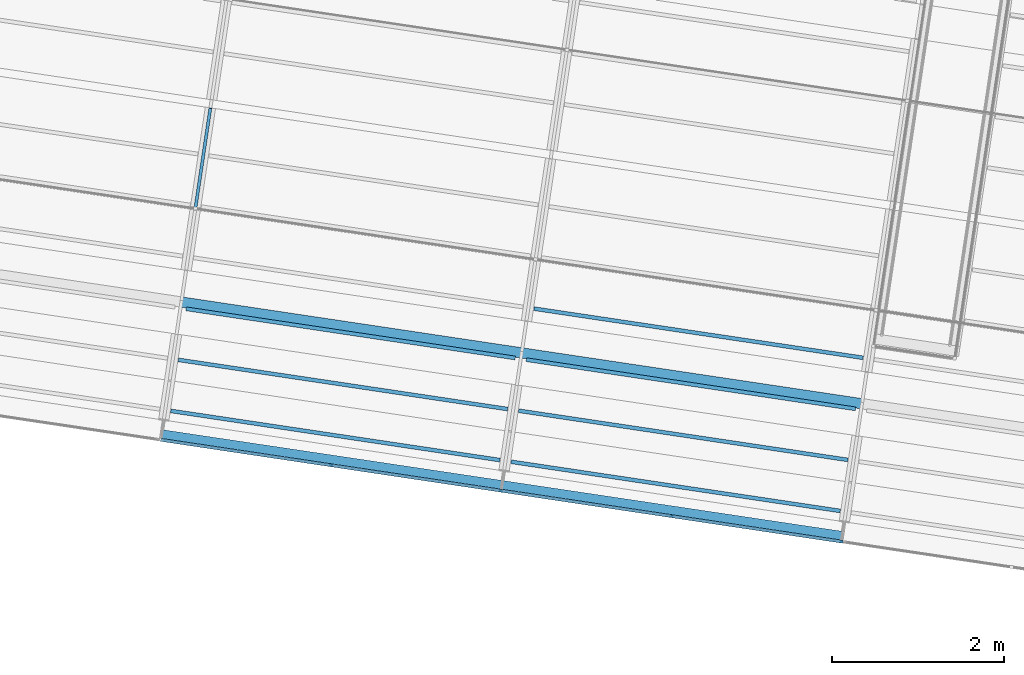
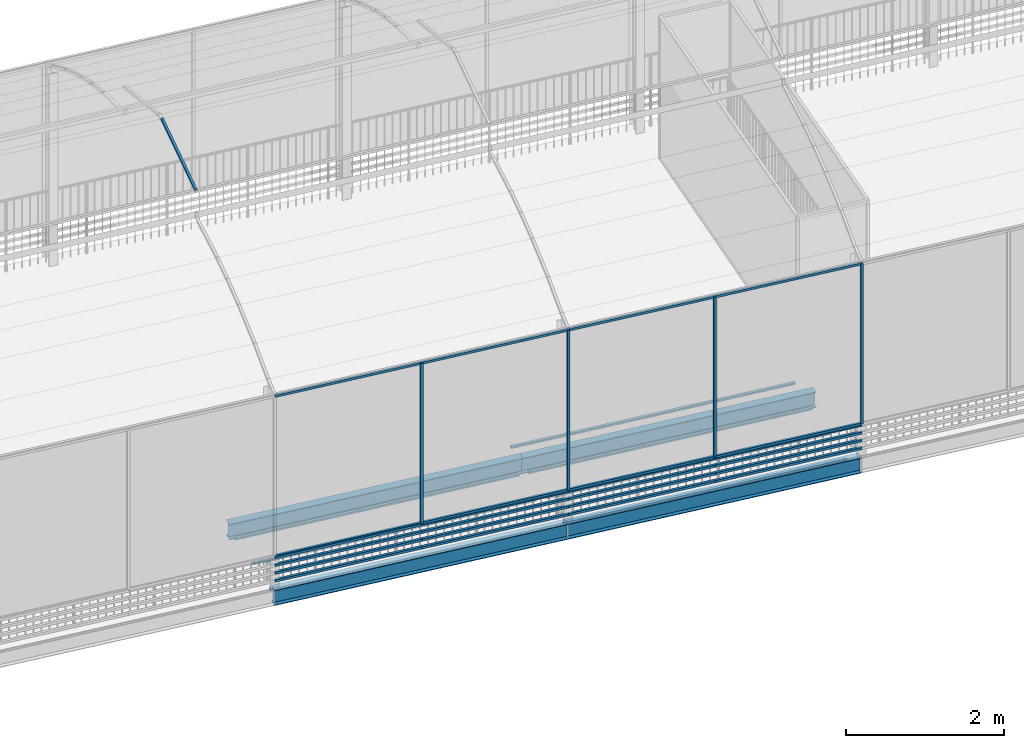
# One storey, part 10 of 34: 33 members, 11 beams, 1 element without a shape of its own.
"""IFC4 building model written with IfcOpenShell, lengths in metres."""

import ifcopenshell
import ifcopenshell.guid

model = None  # the IFC model being written
_history = None  # IfcOwnerHistory: only IFC2X3 demands one
_inside = {}  # id of a spatial element -> (the spatial element, [elements in it])
_under = {}  # id of a project, library or spatial element -> (it, [spatial elements below it])
_declared = {}  # id of a project -> (the project, [libraries it declares])
_typed = {}  # id of a type object -> (the type object, [elements of that type])
_made_of = {}  # id of a material, layer set ... -> (it, [elements and type objects made of it])


def new_model(schema):
    """Start an empty IFC model of exactly this schema.

    Asked for "IFC4X3", IfcOpenShell would pick the latest addendum, in which some entities
    have other attributes; the version numbers below select the first issue.
    IFC2X3 requires an IfcOwnerHistory on every rooted entity: one is made here for all.
    """
    global model, _history
    if schema == "IFC4X3":
        model = ifcopenshell.file(schema_version=(4, 3, 0, 0))
    else:
        model = ifcopenshell.file(schema=schema)
    _inside.clear()
    _under.clear()
    _declared.clear()
    _typed.clear()
    _made_of.clear()
    _history = None
    if model.schema == "IFC2X3":
        org = make("IfcOrganization", Name="unknown")
        user = make(
            "IfcPersonAndOrganization",
            ThePerson=make("IfcPerson", FamilyName="unknown"),
            TheOrganization=org,
        )
        app = make(
            "IfcApplication",
            ApplicationDeveloper=org,
            Version="unknown",
            ApplicationFullName="unknown",
            ApplicationIdentifier="unknown",
        )
        _history = make(
            "IfcOwnerHistory",
            OwningUser=user,
            OwningApplication=app,
            ChangeAction="ADDED",
            CreationDate=0,
        )
    return model


def make(cls, **values):
    """One entity of the class cls with the attributes given. An attribute that is None is left unset."""
    return model.create_entity(
        cls, **{name: value for name, value in values.items() if value is not None}
    )


def rooted(cls, **values):
    """An entity with a GlobalId (a new one), such as an element, a storey or a relation."""
    return make(cls, GlobalId=ifcopenshell.guid.new(), OwnerHistory=_history, **values)


def si_unit(unit_type, name, prefix=None):
    """IfcSIUnit, for example si_unit("LENGTHUNIT", "METRE", prefix="MILLI")."""
    return make("IfcSIUnit", UnitType=unit_type, Prefix=prefix, Name=name)


def assignment(units):
    """IfcUnitAssignment: the units of a project."""
    return None if units is None else make("IfcUnitAssignment", Units=units)


def point(xyz):
    """IfcCartesianPoint."""
    return None if xyz is None else make("IfcCartesianPoint", Coordinates=xyz)


def direction(xyz):
    """IfcDirection."""
    return None if xyz is None else make("IfcDirection", DirectionRatios=xyz)


def frame(location, z_axis=None, x_axis=None):
    """IfcAxis2Placement3D, a coordinate frame: its origin and axes. An axis left out is left unset."""
    return make(
        "IfcAxis2Placement3D",
        Location=point(location),
        Axis=direction(z_axis),
        RefDirection=direction(x_axis),
    )


def origin_with_axes():
    """The frame at (0, 0, 0) with the z axis (0, 0, 1) and the x axis (1, 0, 0) written out."""
    return frame((0.0, 0.0, 0.0), z_axis=(0.0, 0.0, 1.0), x_axis=(1.0, 0.0, 0.0))


def place(relative_to, where):
    """IfcLocalPlacement: puts the frame where relative to a parent placement (None: the world)."""
    return make(
        "IfcLocalPlacement", PlacementRelTo=relative_to, RelativePlacement=where
    )


def context(
    kind, dimensions, precision=None, world=None, true_north=None, identifier=None
):
    """IfcGeometricRepresentationContext, for example the 3D "Model" context."""
    return make(
        "IfcGeometricRepresentationContext",
        ContextIdentifier=identifier,
        ContextType=kind,
        CoordinateSpaceDimension=dimensions,
        Precision=precision,
        WorldCoordinateSystem=world,
        TrueNorth=true_north,
    )


def subcontext(parent, identifier, kind, view, scale=None):
    """IfcGeometricRepresentationSubContext, for example "Body" below "Model"."""
    return make(
        "IfcGeometricRepresentationSubContext",
        ContextIdentifier=identifier,
        ContextType=kind,
        ParentContext=parent,
        TargetScale=scale,
        TargetView=view,
    )


def project(units=None, contexts=None):
    """IfcProject with its units and contexts."""
    return rooted(
        "IfcProject",
        Name="project",
        RepresentationContexts=contexts,
        UnitsInContext=assignment(units),
    )


def spatial(cls, under=None, at=None, **own):
    """A site, building, storey or space (cls), placed at a placement, below another one or the project."""
    s = rooted(cls, ObjectPlacement=at, **own)
    if under is not None:
        _under.setdefault(under.id(), (under, []))[1].append(s)
    return s


def polyline(points):
    """IfcPolyline through the points."""
    return make("IfcPolyline", Points=[point(p) for p in points])


def profile(cls, at=None, kind="AREA", **sizes):
    """A parametric profile (cls). Its sizes go by their IFC names, for example OverallWidth=200.0."""
    return make(cls, ProfileType=kind, Position=at, **sizes)


def rectangle(**sizes):
    """IfcRectangleProfileDef."""
    return profile("IfcRectangleProfileDef", **sizes)


def i_section(**sizes):
    """IfcIShapeProfileDef."""
    return profile("IfcIShapeProfileDef", **sizes)


def outline(outer, holes=None, kind="AREA"):
    """IfcArbitraryClosedProfileDef: a profile drawn as a closed curve; with holes, ...WithVoids."""
    if holes is None:
        return make("IfcArbitraryClosedProfileDef", ProfileType=kind, OuterCurve=outer)
    return make(
        "IfcArbitraryProfileDefWithVoids",
        ProfileType=kind,
        OuterCurve=outer,
        InnerCurves=holes,
    )


def extrude(swept, where, along, depth):
    """IfcExtrudedAreaSolid: the profile swept, set in the frame where, extruded along a direction by depth."""
    return make(
        "IfcExtrudedAreaSolid",
        SweptArea=swept,
        Position=where,
        ExtrudedDirection=direction(along),
        Depth=depth,
    )


def shape(context_of_items, identifier, shape_type, items):
    """IfcShapeRepresentation: the items that make up one representation, for example the "Body"."""
    return make(
        "IfcShapeRepresentation",
        ContextOfItems=context_of_items,
        RepresentationIdentifier=identifier,
        RepresentationType=shape_type,
        Items=items,
    )


def material(Name=None, Category=None):
    """IfcMaterial."""
    return make("IfcMaterial", Name=Name, Category=Category)


def material_profile(
    of_material, cross_section, Name=None, Category=None, Priority=None
):
    """IfcMaterialProfile: a cross section and its material."""
    return make(
        "IfcMaterialProfile",
        Name=Name,
        Material=of_material,
        Profile=cross_section,
        Priority=Priority,
        Category=Category,
    )


def profile_set(profiles, Name=None, composite=None):
    """IfcMaterialProfileSet."""
    return make(
        "IfcMaterialProfileSet",
        Name=Name,
        MaterialProfiles=profiles,
        CompositeProfile=composite,
    )


def profile_usage(for_profile_set, cardinal=None, extent=None):
    """IfcMaterialProfileSetUsage: how a profile set lies along its element."""
    return make(
        "IfcMaterialProfileSetUsage",
        ForProfileSet=for_profile_set,
        CardinalPoint=cardinal,
        ReferenceExtent=extent,
    )


def made_of(thing, what):
    """Note that an element or type object is made of a material, layer set ...; save() writes the relation."""
    if what is not None:
        _made_of.setdefault(what.id(), (what, []))[1].append(thing)
    return thing


def type_object(cls, material=None, **own):
    """A type object (cls), such as IfcWallType, which elements share."""
    return made_of(rooted(cls, **own), material)


def element(
    cls,
    number,
    at=None,
    inside=None,
    cuts=None,
    type_object=None,
    material=None,
    context=None,
    identifier="Body",
    shape_type=None,
    held_by="IfcProductDefinitionShape",
    body=None,
    shapes=None,
    **own,
):
    """One element of the class cls, such as IfcWall. Its Tag is "e" and its number.

    at: its placement. inside: the storey or other place that contains it. cuts: it is an
    opening in that element (IfcRelVoidsElement). A single representation is given by context,
    identifier, shape_type and body (its items); several are given by shapes. held_by: the class
    of the entity that holds the representations. save() writes the other relations.
    """
    e = rooted(cls, Tag="e%d" % number, ObjectPlacement=at, **own)
    if body is not None:
        shapes = [shape(context, identifier, shape_type, body)]
    if shapes is not None:
        e.Representation = make(held_by, Representations=shapes)
    if inside is not None:
        _inside.setdefault(inside.id(), (inside, []))[1].append(e)
    if cuts is not None:
        rooted(
            "IfcRelVoidsElement", RelatingBuildingElement=cuts, RelatedOpeningElement=e
        )
    if type_object is not None:
        _typed.setdefault(type_object.id(), (type_object, []))[1].append(e)
    return made_of(e, material)


def aggregate(whole, parts):
    """IfcRelAggregates: a whole, such as a stair, and the parts it consists of."""
    return rooted("IfcRelAggregates", RelatingObject=whole, RelatedObjects=parts)


def save(model, path):
    """Write the relations noted so far, then the file.

    IfcRelAggregates (storeys below a building ...), IfcRelContainedInSpatialStructure (elements
    in a storey), IfcRelDefinesByType, IfcRelAssociatesMaterial and IfcRelDeclares: one each for
    every whole, place, type object, material and project.
    """
    for whole, parts in _under.values():
        aggregate(whole, parts)
    for where, things in _inside.values():
        rooted(
            "IfcRelContainedInSpatialStructure",
            RelatedElements=things,
            RelatingStructure=where,
        )
    for kind, things in _typed.values():
        rooted("IfcRelDefinesByType", RelatedObjects=things, RelatingType=kind)
    for what, things in _made_of.values():
        rooted("IfcRelAssociatesMaterial", RelatedObjects=things, RelatingMaterial=what)
    for by, libraries in _declared.values():
        rooted("IfcRelDeclares", RelatingContext=by, RelatedDefinitions=libraries)
    model.write(path)


model = new_model("IFC4")

# Units and contexts
model_context = context("Model", 3, precision=1e-05, world=origin_with_axes(), true_north=direction((0.0, 1.0)))
body_context = subcontext(model_context, "Body", "Model", "MODEL_VIEW")
ifc_project = project(units=[si_unit("VOLUMEUNIT", "CUBIC_METRE"), si_unit("LENGTHUNIT", "METRE"), si_unit("AREAUNIT", "SQUARE_METRE")], contexts=[model_context])

# Site, building, storey
site_placement = place(None, origin_with_axes())
site = spatial("IfcSite", under=ifc_project, at=site_placement, Name="Lares · Rua das Mercês · artigo 4771")
building_placement = place(site_placement, frame((12.0, 10.2, 13.9), z_axis=(0.0, 0.0, 1.0), x_axis=(0.989015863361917, -0.147809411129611, 0.0)))
building = spatial("IfcBuilding", under=site, at=building_placement, Name="Casa Sobreposta")
storey_placement = place(building_placement, frame((0.0, 0.0, 3.24), z_axis=(0.0, 0.0, 1.0), x_axis=(1.0, 0.0, 0.0)))
storey = spatial("IfcBuildingStorey", under=building, at=storey_placement, Name="01 · Jardim de inverno", Elevation=17.14)

# Beams
ifc_material_1 = material(Name="Aço pintado / Stahl lackiert", Category="steel")
ifc_material_profile_1 = material_profile(ifc_material_1, i_section(OverallWidth=0.12, OverallDepth=0.24, WebThickness=0.0062, FlangeThickness=0.0098))
ifc_profile_set_1 = profile_set([ifc_material_profile_1], Name="IPE240")
ifc_profile_usage_1 = profile_usage(ifc_profile_set_1)
beam_type = type_object("IfcBeamType", Name="IPE240 / steel", PredefinedType="NOTDEFINED", material=ifc_profile_set_1)
beam_1_placement = place(storey_placement, frame((16.0, 0.12, -0.152), z_axis=(1.0, 0.0, 0.0), x_axis=(0.0, -1.0, 0.0)))
element("IfcBeam", 1, at=beam_1_placement, inside=storey, type_object=beam_type, material=ifc_profile_usage_1, Name="Viga longitudinal 16 / 0.12", context=body_context, shape_type="SweptSolid", body=[
    extrude(i_section(OverallWidth=0.12, OverallDepth=0.24, WebThickness=0.0062, FlangeThickness=0.0098), origin_with_axes(), (0.0, 0.0, 1.0), 4.0),
])
ifc_profile_usage_2 = profile_usage(ifc_profile_set_1)
beam_2_placement = place(storey_placement, frame((20.0, 0.12, -0.152), z_axis=(1.0, 0.0, 0.0), x_axis=(0.0, -1.0, 0.0)))
element("IfcBeam", 2, at=beam_2_placement, inside=storey, type_object=beam_type, material=ifc_profile_usage_2, Name="Viga longitudinal 20 / 0.12", context=body_context, shape_type="SweptSolid", body=[
    extrude(i_section(OverallWidth=0.12, OverallDepth=0.24, WebThickness=0.0062, FlangeThickness=0.0098), origin_with_axes(), (0.0, 0.0, 1.0), 4.0),
])
ifc_profile_usage_3 = profile_usage(ifc_profile_set_1)
beam_3_placement = place(storey_placement, frame((16.0, -1.44, -0.152), z_axis=(1.0, 0.0, 0.0), x_axis=(0.0, -1.0, 0.0)))
element("IfcBeam", 3, at=beam_3_placement, inside=storey, type_object=beam_type, material=ifc_profile_usage_3, Name="Viga longitudinal 16 / -1.44", context=body_context, shape_type="SweptSolid", body=[
    extrude(i_section(OverallWidth=0.12, OverallDepth=0.24, WebThickness=0.0062, FlangeThickness=0.0098), origin_with_axes(), (0.0, 0.0, 1.0), 4.0),
])
ifc_profile_usage_4 = profile_usage(ifc_profile_set_1)
beam_4_placement = place(storey_placement, frame((20.0, -1.44, -0.152), z_axis=(1.0, 0.0, 0.0), x_axis=(0.0, -1.0, 0.0)))
element("IfcBeam", 4, at=beam_4_placement, inside=storey, type_object=beam_type, material=ifc_profile_usage_4, Name="Viga longitudinal 20 / -1.44", context=body_context, shape_type="SweptSolid", body=[
    extrude(i_section(OverallWidth=0.12, OverallDepth=0.24, WebThickness=0.0062, FlangeThickness=0.0098), origin_with_axes(), (0.0, 0.0, 1.0), 4.0),
])

# Members
ifc_material_profile_2 = material_profile(ifc_material_1, rectangle(XDim=0.035, YDim=0.035))
ifc_profile_set_2 = profile_set([ifc_material_profile_2], Name="R0.035")
ifc_profile_usage_5 = profile_usage(ifc_profile_set_2)
member_type = type_object("IfcMemberType", Name="R0.035 / steel", PredefinedType="NOTDEFINED", material=ifc_profile_set_2)
member_1_placement = place(storey_placement, frame((18.0, -1.5, 0.5), z_axis=(0.0, 0.0, 1.0), x_axis=(1.0, 0.0, 0.0)))
element("IfcMember", 5, at=member_1_placement, inside=storey, type_object=member_type, material=ifc_profile_usage_5, context=body_context, shape_type="SweptSolid", body=[
    extrude(rectangle(XDim=0.035, YDim=0.035), origin_with_axes(), (0.0, 0.0, 1.0), 2.48),
])
ifc_profile_usage_6 = profile_usage(ifc_profile_set_2)
member_2_placement = place(storey_placement, frame((16.0, -1.5, 0.5), z_axis=(1.0, 0.0, 0.0), x_axis=(0.0, -1.0, 0.0)))
element("IfcMember", 6, at=member_2_placement, inside=storey, type_object=member_type, material=ifc_profile_usage_6, Name="Estufa sul 9 · travessa", context=body_context, shape_type="SweptSolid", body=[
    extrude(rectangle(XDim=0.035, YDim=0.035), origin_with_axes(), (0.0, 0.0, 1.0), 2.0),
])
ifc_profile_usage_7 = profile_usage(ifc_profile_set_2)
member_3_placement = place(storey_placement, frame((16.0, -1.5, 2.98), z_axis=(1.0, 0.0, 0.0), x_axis=(0.0, -1.0, 0.0)))
element("IfcMember", 7, at=member_3_placement, inside=storey, type_object=member_type, material=ifc_profile_usage_7, Name="Estufa sul 9 · travessa", context=body_context, shape_type="SweptSolid", body=[
    extrude(rectangle(XDim=0.035, YDim=0.035), origin_with_axes(), (0.0, 0.0, 1.0), 2.0),
])
ifc_profile_usage_8 = profile_usage(ifc_profile_set_2)
member_4_placement = place(storey_placement, frame((16.0, -1.5, 0.12), z_axis=(1.0, 0.0, 0.0), x_axis=(0.0, -1.0, 0.0)))
element("IfcMember", 8, at=member_4_placement, inside=storey, type_object=member_type, material=ifc_profile_usage_8, Name="Entrada de ar sul 9", context=body_context, shape_type="SweptSolid", body=[
    extrude(rectangle(XDim=0.035, YDim=0.035), origin_with_axes(), (0.0, 0.0, 1.0), 2.0),
])
ifc_profile_usage_9 = profile_usage(ifc_profile_set_2)
member_5_placement = place(storey_placement, frame((16.0, -1.5, 0.24), z_axis=(1.0, 0.0, 0.0), x_axis=(0.0, -1.0, 0.0)))
element("IfcMember", 9, at=member_5_placement, inside=storey, type_object=member_type, material=ifc_profile_usage_9, Name="Entrada de ar sul 9", context=body_context, shape_type="SweptSolid", body=[
    extrude(rectangle(XDim=0.035, YDim=0.035), origin_with_axes(), (0.0, 0.0, 1.0), 2.0),
])
ifc_profile_usage_10 = profile_usage(ifc_profile_set_2)
member_6_placement = place(storey_placement, frame((16.0, -1.5, 0.36), z_axis=(1.0, 0.0, 0.0), x_axis=(0.0, -1.0, 0.0)))
element("IfcMember", 10, at=member_6_placement, inside=storey, type_object=member_type, material=ifc_profile_usage_10, Name="Entrada de ar sul 9", context=body_context, shape_type="SweptSolid", body=[
    extrude(rectangle(XDim=0.035, YDim=0.035), origin_with_axes(), (0.0, 0.0, 1.0), 2.0),
])
ifc_profile_usage_11 = profile_usage(ifc_profile_set_2)
member_7_placement = place(storey_placement, frame((16.0, -1.5, 0.48), z_axis=(1.0, 0.0, 0.0), x_axis=(0.0, -1.0, 0.0)))
element("IfcMember", 11, at=member_7_placement, inside=storey, type_object=member_type, material=ifc_profile_usage_11, Name="Entrada de ar sul 9", context=body_context, shape_type="SweptSolid", body=[
    extrude(rectangle(XDim=0.035, YDim=0.035), origin_with_axes(), (0.0, 0.0, 1.0), 2.0),
])
ifc_profile_usage_12 = profile_usage(ifc_profile_set_2)
member_8_placement = place(storey_placement, frame((18.0, -1.5, 0.5), z_axis=(0.0, 0.0, 1.0), x_axis=(1.0, 0.0, 0.0)))
element("IfcMember", 12, at=member_8_placement, inside=storey, type_object=member_type, material=ifc_profile_usage_12, context=body_context, shape_type="SweptSolid", body=[
    extrude(rectangle(XDim=0.035, YDim=0.035), origin_with_axes(), (0.0, 0.0, 1.0), 2.48),
])
ifc_profile_usage_13 = profile_usage(ifc_profile_set_2)
member_9_placement = place(storey_placement, frame((20.0, -1.5, 0.5), z_axis=(0.0, 0.0, 1.0), x_axis=(1.0, 0.0, 0.0)))
element("IfcMember", 13, at=member_9_placement, inside=storey, type_object=member_type, material=ifc_profile_usage_13, context=body_context, shape_type="SweptSolid", body=[
    extrude(rectangle(XDim=0.035, YDim=0.035), origin_with_axes(), (0.0, 0.0, 1.0), 2.48),
])
ifc_profile_usage_14 = profile_usage(ifc_profile_set_2)
member_10_placement = place(storey_placement, frame((18.0, -1.5, 0.5), z_axis=(1.0, 0.0, 0.0), x_axis=(0.0, -1.0, 0.0)))
element("IfcMember", 14, at=member_10_placement, inside=storey, type_object=member_type, material=ifc_profile_usage_14, Name="Estufa sul 10 · travessa", context=body_context, shape_type="SweptSolid", body=[
    extrude(rectangle(XDim=0.035, YDim=0.035), origin_with_axes(), (0.0, 0.0, 1.0), 2.0),
])
ifc_profile_usage_15 = profile_usage(ifc_profile_set_2)
member_11_placement = place(storey_placement, frame((18.0, -1.5, 2.98), z_axis=(1.0, 0.0, 0.0), x_axis=(0.0, -1.0, 0.0)))
element("IfcMember", 15, at=member_11_placement, inside=storey, type_object=member_type, material=ifc_profile_usage_15, Name="Estufa sul 10 · travessa", context=body_context, shape_type="SweptSolid", body=[
    extrude(rectangle(XDim=0.035, YDim=0.035), origin_with_axes(), (0.0, 0.0, 1.0), 2.0),
])
ifc_profile_usage_16 = profile_usage(ifc_profile_set_2)
member_12_placement = place(storey_placement, frame((18.0, -1.5, 0.12), z_axis=(1.0, 0.0, 0.0), x_axis=(0.0, -1.0, 0.0)))
element("IfcMember", 16, at=member_12_placement, inside=storey, type_object=member_type, material=ifc_profile_usage_16, Name="Entrada de ar sul 10", context=body_context, shape_type="SweptSolid", body=[
    extrude(rectangle(XDim=0.035, YDim=0.035), origin_with_axes(), (0.0, 0.0, 1.0), 2.0),
])
ifc_profile_usage_17 = profile_usage(ifc_profile_set_2)
member_13_placement = place(storey_placement, frame((18.0, -1.5, 0.24), z_axis=(1.0, 0.0, 0.0), x_axis=(0.0, -1.0, 0.0)))
element("IfcMember", 17, at=member_13_placement, inside=storey, type_object=member_type, material=ifc_profile_usage_17, Name="Entrada de ar sul 10", context=body_context, shape_type="SweptSolid", body=[
    extrude(rectangle(XDim=0.035, YDim=0.035), origin_with_axes(), (0.0, 0.0, 1.0), 2.0),
])
ifc_profile_usage_18 = profile_usage(ifc_profile_set_2)
member_14_placement = place(storey_placement, frame((18.0, -1.5, 0.36), z_axis=(1.0, 0.0, 0.0), x_axis=(0.0, -1.0, 0.0)))
element("IfcMember", 18, at=member_14_placement, inside=storey, type_object=member_type, material=ifc_profile_usage_18, Name="Entrada de ar sul 10", context=body_context, shape_type="SweptSolid", body=[
    extrude(rectangle(XDim=0.035, YDim=0.035), origin_with_axes(), (0.0, 0.0, 1.0), 2.0),
])
ifc_profile_usage_19 = profile_usage(ifc_profile_set_2)
member_15_placement = place(storey_placement, frame((18.0, -1.5, 0.48), z_axis=(1.0, 0.0, 0.0), x_axis=(0.0, -1.0, 0.0)))
element("IfcMember", 19, at=member_15_placement, inside=storey, type_object=member_type, material=ifc_profile_usage_19, Name="Entrada de ar sul 10", context=body_context, shape_type="SweptSolid", body=[
    extrude(rectangle(XDim=0.035, YDim=0.035), origin_with_axes(), (0.0, 0.0, 1.0), 2.0),
])
ifc_profile_usage_20 = profile_usage(ifc_profile_set_2)
member_16_placement = place(storey_placement, frame((20.0, -1.5, 0.5), z_axis=(0.0, 0.0, 1.0), x_axis=(1.0, 0.0, 0.0)))
element("IfcMember", 20, at=member_16_placement, inside=storey, type_object=member_type, material=ifc_profile_usage_20, context=body_context, shape_type="SweptSolid", body=[
    extrude(rectangle(XDim=0.035, YDim=0.035), origin_with_axes(), (0.0, 0.0, 1.0), 2.48),
])
ifc_profile_usage_21 = profile_usage(ifc_profile_set_2)
member_17_placement = place(storey_placement, frame((22.0, -1.5, 0.5), z_axis=(0.0, 0.0, 1.0), x_axis=(1.0, 0.0, 0.0)))
element("IfcMember", 21, at=member_17_placement, inside=storey, type_object=member_type, material=ifc_profile_usage_21, context=body_context, shape_type="SweptSolid", body=[
    extrude(rectangle(XDim=0.035, YDim=0.035), origin_with_axes(), (0.0, 0.0, 1.0), 2.48),
])
ifc_profile_usage_22 = profile_usage(ifc_profile_set_2)
member_18_placement = place(storey_placement, frame((20.0, -1.5, 0.5), z_axis=(1.0, 0.0, 0.0), x_axis=(0.0, -1.0, 0.0)))
element("IfcMember", 22, at=member_18_placement, inside=storey, type_object=member_type, material=ifc_profile_usage_22, Name="Estufa sul 11 · travessa", context=body_context, shape_type="SweptSolid", body=[
    extrude(rectangle(XDim=0.035, YDim=0.035), origin_with_axes(), (0.0, 0.0, 1.0), 2.0),
])
ifc_profile_usage_23 = profile_usage(ifc_profile_set_2)
member_19_placement = place(storey_placement, frame((20.0, -1.5, 2.98), z_axis=(1.0, 0.0, 0.0), x_axis=(0.0, -1.0, 0.0)))
element("IfcMember", 23, at=member_19_placement, inside=storey, type_object=member_type, material=ifc_profile_usage_23, Name="Estufa sul 11 · travessa", context=body_context, shape_type="SweptSolid", body=[
    extrude(rectangle(XDim=0.035, YDim=0.035), origin_with_axes(), (0.0, 0.0, 1.0), 2.0),
])
ifc_profile_usage_24 = profile_usage(ifc_profile_set_2)
member_20_placement = place(storey_placement, frame((20.0, -1.5, 0.12), z_axis=(1.0, 0.0, 0.0), x_axis=(0.0, -1.0, 0.0)))
element("IfcMember", 24, at=member_20_placement, inside=storey, type_object=member_type, material=ifc_profile_usage_24, Name="Entrada de ar sul 11", context=body_context, shape_type="SweptSolid", body=[
    extrude(rectangle(XDim=0.035, YDim=0.035), origin_with_axes(), (0.0, 0.0, 1.0), 2.0),
])
ifc_profile_usage_25 = profile_usage(ifc_profile_set_2)
member_21_placement = place(storey_placement, frame((20.0, -1.5, 0.24), z_axis=(1.0, 0.0, 0.0), x_axis=(0.0, -1.0, 0.0)))
element("IfcMember", 25, at=member_21_placement, inside=storey, type_object=member_type, material=ifc_profile_usage_25, Name="Entrada de ar sul 11", context=body_context, shape_type="SweptSolid", body=[
    extrude(rectangle(XDim=0.035, YDim=0.035), origin_with_axes(), (0.0, 0.0, 1.0), 2.0),
])
ifc_profile_usage_26 = profile_usage(ifc_profile_set_2)
member_22_placement = place(storey_placement, frame((20.0, -1.5, 0.36), z_axis=(1.0, 0.0, 0.0), x_axis=(0.0, -1.0, 0.0)))
element("IfcMember", 26, at=member_22_placement, inside=storey, type_object=member_type, material=ifc_profile_usage_26, Name="Entrada de ar sul 11", context=body_context, shape_type="SweptSolid", body=[
    extrude(rectangle(XDim=0.035, YDim=0.035), origin_with_axes(), (0.0, 0.0, 1.0), 2.0),
])
ifc_profile_usage_27 = profile_usage(ifc_profile_set_2)
member_23_placement = place(storey_placement, frame((20.0, -1.5, 0.48), z_axis=(1.0, 0.0, 0.0), x_axis=(0.0, -1.0, 0.0)))
element("IfcMember", 27, at=member_23_placement, inside=storey, type_object=member_type, material=ifc_profile_usage_27, Name="Entrada de ar sul 11", context=body_context, shape_type="SweptSolid", body=[
    extrude(rectangle(XDim=0.035, YDim=0.035), origin_with_axes(), (0.0, 0.0, 1.0), 2.0),
])
ifc_profile_usage_28 = profile_usage(ifc_profile_set_2)
member_24_placement = place(storey_placement, frame((22.0, -1.5, 0.5), z_axis=(0.0, 0.0, 1.0), x_axis=(1.0, 0.0, 0.0)))
element("IfcMember", 28, at=member_24_placement, inside=storey, type_object=member_type, material=ifc_profile_usage_28, context=body_context, shape_type="SweptSolid", body=[
    extrude(rectangle(XDim=0.035, YDim=0.035), origin_with_axes(), (0.0, 0.0, 1.0), 2.48),
])
ifc_profile_usage_29 = profile_usage(ifc_profile_set_2)
member_25_placement = place(storey_placement, frame((24.0, -1.5, 0.5), z_axis=(0.0, 0.0, 1.0), x_axis=(1.0, 0.0, 0.0)))
element("IfcMember", 29, at=member_25_placement, inside=storey, type_object=member_type, material=ifc_profile_usage_29, context=body_context, shape_type="SweptSolid", body=[
    extrude(rectangle(XDim=0.035, YDim=0.035), origin_with_axes(), (0.0, 0.0, 1.0), 2.48),
])
ifc_profile_usage_30 = profile_usage(ifc_profile_set_2)
member_26_placement = place(storey_placement, frame((22.0, -1.5, 0.5), z_axis=(1.0, 0.0, 0.0), x_axis=(0.0, -1.0, 0.0)))
element("IfcMember", 30, at=member_26_placement, inside=storey, type_object=member_type, material=ifc_profile_usage_30, Name="Estufa sul 12 · travessa", context=body_context, shape_type="SweptSolid", body=[
    extrude(rectangle(XDim=0.035, YDim=0.035), origin_with_axes(), (0.0, 0.0, 1.0), 2.0),
])
ifc_profile_usage_31 = profile_usage(ifc_profile_set_2)
member_27_placement = place(storey_placement, frame((22.0, -1.5, 2.98), z_axis=(1.0, 0.0, 0.0), x_axis=(0.0, -1.0, 0.0)))
element("IfcMember", 31, at=member_27_placement, inside=storey, type_object=member_type, material=ifc_profile_usage_31, Name="Estufa sul 12 · travessa", context=body_context, shape_type="SweptSolid", body=[
    extrude(rectangle(XDim=0.035, YDim=0.035), origin_with_axes(), (0.0, 0.0, 1.0), 2.0),
])
ifc_profile_usage_32 = profile_usage(ifc_profile_set_2)
member_28_placement = place(storey_placement, frame((22.0, -1.5, 0.12), z_axis=(1.0, 0.0, 0.0), x_axis=(0.0, -1.0, 0.0)))
element("IfcMember", 32, at=member_28_placement, inside=storey, type_object=member_type, material=ifc_profile_usage_32, Name="Entrada de ar sul 12", context=body_context, shape_type="SweptSolid", body=[
    extrude(rectangle(XDim=0.035, YDim=0.035), origin_with_axes(), (0.0, 0.0, 1.0), 2.0),
])
ifc_profile_usage_33 = profile_usage(ifc_profile_set_2)
member_29_placement = place(storey_placement, frame((22.0, -1.5, 0.24), z_axis=(1.0, 0.0, 0.0), x_axis=(0.0, -1.0, 0.0)))
element("IfcMember", 33, at=member_29_placement, inside=storey, type_object=member_type, material=ifc_profile_usage_33, Name="Entrada de ar sul 12", context=body_context, shape_type="SweptSolid", body=[
    extrude(rectangle(XDim=0.035, YDim=0.035), origin_with_axes(), (0.0, 0.0, 1.0), 2.0),
])
ifc_profile_usage_34 = profile_usage(ifc_profile_set_2)
member_30_placement = place(storey_placement, frame((22.0, -1.5, 0.36), z_axis=(1.0, 0.0, 0.0), x_axis=(0.0, -1.0, 0.0)))
element("IfcMember", 34, at=member_30_placement, inside=storey, type_object=member_type, material=ifc_profile_usage_34, Name="Entrada de ar sul 12", context=body_context, shape_type="SweptSolid", body=[
    extrude(rectangle(XDim=0.035, YDim=0.035), origin_with_axes(), (0.0, 0.0, 1.0), 2.0),
])
ifc_profile_usage_35 = profile_usage(ifc_profile_set_2)
member_31_placement = place(storey_placement, frame((22.0, -1.5, 0.48), z_axis=(1.0, 0.0, 0.0), x_axis=(0.0, -1.0, 0.0)))
element("IfcMember", 35, at=member_31_placement, inside=storey, type_object=member_type, material=ifc_profile_usage_35, Name="Entrada de ar sul 12", context=body_context, shape_type="SweptSolid", body=[
    extrude(rectangle(XDim=0.035, YDim=0.035), origin_with_axes(), (0.0, 0.0, 1.0), 2.0),
])
ifc_profile_usage_36 = profile_usage(ifc_profile_set_2)
member_32_placement = place(storey_placement, frame((24.0, -1.5, 0.5), z_axis=(0.0, 0.0, 1.0), x_axis=(1.0, 0.0, 0.0)))
element("IfcMember", 36, at=member_32_placement, inside=storey, type_object=member_type, material=ifc_profile_usage_36, context=body_context, shape_type="SweptSolid", body=[
    extrude(rectangle(XDim=0.035, YDim=0.035), origin_with_axes(), (0.0, 0.0, 1.0), 2.48),
])

# Roof, member
ifc_material_2 = material(Name="Vidro / Normalglas", Category="glass")
roof_placement = place(storey_placement, frame((0.0, 0.0, -3.24), z_axis=(0.0, 0.0, 1.0), x_axis=(1.0, 0.0, 0.0)))
roof = element("IfcRoof", 37, at=roof_placement, inside=storey, material=ifc_material_2, Name="Cobertura translúcida da estufa", PredefinedType="BARREL_ROOF")
ifc_profile_usage_37 = profile_usage(ifc_profile_set_2)
member_33_placement = place(roof_placement, frame((16.0, 1.22042020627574, 7.62067689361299), z_axis=(0.0, 0.960073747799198, 0.279747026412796), x_axis=(1.0, 0.0, 0.0)))
member_33 = element("IfcMember", 38, at=member_33_placement, type_object=member_type, material=ifc_profile_usage_37, Name="Arco estufa 16/7", context=body_context, shape_type="SweptSolid", body=[
    extrude(rectangle(XDim=0.035, YDim=0.035), origin_with_axes(), (0.0, 0.0, 1.0), 1.23148937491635),
])
aggregate(roof, [member_33])

# Beams
ifc_material_3 = material(Name="Madeira / Bauholz", Category="wood")
ifc_material_profile_3 = material_profile(ifc_material_3, outline(polyline([(0.022225, -0.12), (0.022225, -0.092), (-0.022225, -0.092), (-0.022225, -0.12), (0.022225, -0.12)])))
ifc_material_4 = material(Name="OSB", Category="wood")
ifc_material_profile_4 = material_profile(ifc_material_4, outline(polyline([(0.0047625, -0.092), (0.0047625, 0.092), (-0.0047625, 0.092), (-0.0047625, -0.092), (0.0047625, -0.092)])))
ifc_material_profile_5 = material_profile(ifc_material_3, outline(polyline([(0.022225, 0.092), (0.022225, 0.12), (-0.022225, 0.12), (-0.022225, 0.092), (0.022225, 0.092)])))
ifc_profile_set_3 = profile_set([ifc_material_profile_3, ifc_material_profile_4, ifc_material_profile_5], Name="TJI240 · madeira / OSB")
ifc_profile_usage_38 = profile_usage(ifc_profile_set_3)
beam_5_placement = place(storey_placement, frame((16.065, -1.15, -0.152), z_axis=(1.0, 0.0, 0.0), x_axis=(0.0, 1.0, 0.0)))
element("IfcBeam", 39, at=beam_5_placement, inside=storey, material=ifc_profile_usage_38, Name="TJI240 · 16.065 / -1.15", context=body_context, shape_type="SweptSolid", body=[
    extrude(outline(polyline([(0.022225, -0.12), (0.022225, -0.092), (-0.022225, -0.092), (-0.022225, -0.12), (0.022225, -0.12)])), origin_with_axes(), (0.0, 0.0, 1.0), 3.87),
    extrude(outline(polyline([(0.022225, -0.12), (0.022225, -0.092), (-0.022225, -0.092), (-0.022225, -0.12), (0.022225, -0.12)])), origin_with_axes(), (0.0, 0.0, 1.0), 3.87),
    extrude(outline(polyline([(0.022225, -0.12), (0.022225, -0.092), (-0.022225, -0.092), (-0.022225, -0.12), (0.022225, -0.12)])), origin_with_axes(), (0.0, 0.0, 1.0), 3.87),
])
ifc_material_profile_6 = material_profile(ifc_material_3, outline(polyline([(0.022225, -0.12), (0.022225, -0.092), (-0.022225, -0.092), (-0.022225, -0.12), (0.022225, -0.12)])))
ifc_material_profile_7 = material_profile(ifc_material_4, outline(polyline([(0.0047625, -0.092), (0.0047625, 0.092), (-0.0047625, 0.092), (-0.0047625, -0.092), (0.0047625, -0.092)])))
ifc_material_profile_8 = material_profile(ifc_material_3, outline(polyline([(0.022225, 0.092), (0.022225, 0.12), (-0.022225, 0.12), (-0.022225, 0.092), (0.022225, 0.092)])))
ifc_profile_set_4 = profile_set([ifc_material_profile_6, ifc_material_profile_7, ifc_material_profile_8], Name="TJI240 · madeira / OSB")
ifc_profile_usage_39 = profile_usage(ifc_profile_set_4)
beam_6_placement = place(storey_placement, frame((20.065, -1.15, -0.152), z_axis=(1.0, 0.0, 0.0), x_axis=(0.0, 1.0, 0.0)))
element("IfcBeam", 40, at=beam_6_placement, inside=storey, material=ifc_profile_usage_39, Name="TJI240 · 20.065 / -1.15", context=body_context, shape_type="SweptSolid", body=[
    extrude(outline(polyline([(0.022225, -0.12), (0.022225, -0.092), (-0.022225, -0.092), (-0.022225, -0.12), (0.022225, -0.12)])), origin_with_axes(), (0.0, 0.0, 1.0), 3.87),
    extrude(outline(polyline([(0.022225, -0.12), (0.022225, -0.092), (-0.022225, -0.092), (-0.022225, -0.12), (0.022225, -0.12)])), origin_with_axes(), (0.0, 0.0, 1.0), 3.87),
    extrude(outline(polyline([(0.022225, -0.12), (0.022225, -0.092), (-0.022225, -0.092), (-0.022225, -0.12), (0.022225, -0.12)])), origin_with_axes(), (0.0, 0.0, 1.0), 3.87),
])
ifc_material_profile_9 = material_profile(ifc_material_3, outline(polyline([(0.022225, -0.12), (0.022225, -0.092), (-0.022225, -0.092), (-0.022225, -0.12), (0.022225, -0.12)])))
ifc_material_profile_10 = material_profile(ifc_material_4, outline(polyline([(0.0047625, -0.092), (0.0047625, 0.092), (-0.0047625, 0.092), (-0.0047625, -0.092), (0.0047625, -0.092)])))
ifc_material_profile_11 = material_profile(ifc_material_3, outline(polyline([(0.022225, 0.092), (0.022225, 0.12), (-0.022225, 0.12), (-0.022225, 0.092), (0.022225, 0.092)])))
ifc_profile_set_5 = profile_set([ifc_material_profile_9, ifc_material_profile_10, ifc_material_profile_11], Name="TJI240 · madeira / OSB")
ifc_profile_usage_40 = profile_usage(ifc_profile_set_5)
beam_7_placement = place(storey_placement, frame((16.065, -0.55, -0.152), z_axis=(1.0, 0.0, 0.0), x_axis=(0.0, 1.0, 0.0)))
element("IfcBeam", 41, at=beam_7_placement, inside=storey, material=ifc_profile_usage_40, Name="TJI240 · 16.065 / -0.55", context=body_context, shape_type="SweptSolid", body=[
    extrude(outline(polyline([(0.022225, -0.12), (0.022225, -0.092), (-0.022225, -0.092), (-0.022225, -0.12), (0.022225, -0.12)])), origin_with_axes(), (0.0, 0.0, 1.0), 3.87),
    extrude(outline(polyline([(0.022225, -0.12), (0.022225, -0.092), (-0.022225, -0.092), (-0.022225, -0.12), (0.022225, -0.12)])), origin_with_axes(), (0.0, 0.0, 1.0), 3.87),
    extrude(outline(polyline([(0.022225, -0.12), (0.022225, -0.092), (-0.022225, -0.092), (-0.022225, -0.12), (0.022225, -0.12)])), origin_with_axes(), (0.0, 0.0, 1.0), 3.87),
])
ifc_material_profile_12 = material_profile(ifc_material_3, outline(polyline([(0.022225, -0.12), (0.022225, -0.092), (-0.022225, -0.092), (-0.022225, -0.12), (0.022225, -0.12)])))
ifc_material_profile_13 = material_profile(ifc_material_4, outline(polyline([(0.0047625, -0.092), (0.0047625, 0.092), (-0.0047625, 0.092), (-0.0047625, -0.092), (0.0047625, -0.092)])))
ifc_material_profile_14 = material_profile(ifc_material_3, outline(polyline([(0.022225, 0.092), (0.022225, 0.12), (-0.022225, 0.12), (-0.022225, 0.092), (0.022225, 0.092)])))
ifc_profile_set_6 = profile_set([ifc_material_profile_12, ifc_material_profile_13, ifc_material_profile_14], Name="TJI240 · madeira / OSB")
ifc_profile_usage_41 = profile_usage(ifc_profile_set_6)
beam_8_placement = place(storey_placement, frame((20.065, -0.55, -0.152), z_axis=(1.0, 0.0, 0.0), x_axis=(0.0, 1.0, 0.0)))
element("IfcBeam", 42, at=beam_8_placement, inside=storey, material=ifc_profile_usage_41, Name="TJI240 · 20.065 / -0.55", context=body_context, shape_type="SweptSolid", body=[
    extrude(outline(polyline([(0.022225, -0.12), (0.022225, -0.092), (-0.022225, -0.092), (-0.022225, -0.12), (0.022225, -0.12)])), origin_with_axes(), (0.0, 0.0, 1.0), 3.87),
    extrude(outline(polyline([(0.022225, -0.12), (0.022225, -0.092), (-0.022225, -0.092), (-0.022225, -0.12), (0.022225, -0.12)])), origin_with_axes(), (0.0, 0.0, 1.0), 3.87),
    extrude(outline(polyline([(0.022225, -0.12), (0.022225, -0.092), (-0.022225, -0.092), (-0.022225, -0.12), (0.022225, -0.12)])), origin_with_axes(), (0.0, 0.0, 1.0), 3.87),
])
ifc_material_profile_15 = material_profile(ifc_material_3, outline(polyline([(0.022225, -0.12), (0.022225, -0.092), (-0.022225, -0.092), (-0.022225, -0.12), (0.022225, -0.12)])))
ifc_material_profile_16 = material_profile(ifc_material_4, outline(polyline([(0.0047625, -0.092), (0.0047625, 0.092), (-0.0047625, 0.092), (-0.0047625, -0.092), (0.0047625, -0.092)])))
ifc_material_profile_17 = material_profile(ifc_material_3, outline(polyline([(0.022225, 0.092), (0.022225, 0.12), (-0.022225, 0.12), (-0.022225, 0.092), (0.022225, 0.092)])))
ifc_profile_set_7 = profile_set([ifc_material_profile_15, ifc_material_profile_16, ifc_material_profile_17], Name="TJI240 · madeira / OSB")
ifc_profile_usage_42 = profile_usage(ifc_profile_set_7)
beam_9_placement = place(storey_placement, frame((16.065, 0.05, -0.152), z_axis=(1.0, 0.0, 0.0), x_axis=(0.0, 1.0, 0.0)))
element("IfcBeam", 43, at=beam_9_placement, inside=storey, material=ifc_profile_usage_42, Name="TJI240 · 16.065 / 0.05", context=body_context, shape_type="SweptSolid", body=[
    extrude(outline(polyline([(0.022225, -0.12), (0.022225, -0.092), (-0.022225, -0.092), (-0.022225, -0.12), (0.022225, -0.12)])), origin_with_axes(), (0.0, 0.0, 1.0), 3.87),
    extrude(outline(polyline([(0.022225, -0.12), (0.022225, -0.092), (-0.022225, -0.092), (-0.022225, -0.12), (0.022225, -0.12)])), origin_with_axes(), (0.0, 0.0, 1.0), 3.87),
    extrude(outline(polyline([(0.022225, -0.12), (0.022225, -0.092), (-0.022225, -0.092), (-0.022225, -0.12), (0.022225, -0.12)])), origin_with_axes(), (0.0, 0.0, 1.0), 3.87),
])
ifc_material_profile_18 = material_profile(ifc_material_3, outline(polyline([(0.022225, -0.12), (0.022225, -0.092), (-0.022225, -0.092), (-0.022225, -0.12), (0.022225, -0.12)])))
ifc_material_profile_19 = material_profile(ifc_material_4, outline(polyline([(0.0047625, -0.092), (0.0047625, 0.092), (-0.0047625, 0.092), (-0.0047625, -0.092), (0.0047625, -0.092)])))
ifc_material_profile_20 = material_profile(ifc_material_3, outline(polyline([(0.022225, 0.092), (0.022225, 0.12), (-0.022225, 0.12), (-0.022225, 0.092), (0.022225, 0.092)])))
ifc_profile_set_8 = profile_set([ifc_material_profile_18, ifc_material_profile_19, ifc_material_profile_20], Name="TJI240 · madeira / OSB")
ifc_profile_usage_43 = profile_usage(ifc_profile_set_8)
beam_10_placement = place(storey_placement, frame((20.065, 0.05, -0.152), z_axis=(1.0, 0.0, 0.0), x_axis=(0.0, 1.0, 0.0)))
element("IfcBeam", 44, at=beam_10_placement, inside=storey, material=ifc_profile_usage_43, Name="TJI240 · 20.065 / 0.05", context=body_context, shape_type="SweptSolid", body=[
    extrude(outline(polyline([(0.022225, -0.12), (0.022225, -0.092), (-0.022225, -0.092), (-0.022225, -0.12), (0.022225, -0.12)])), origin_with_axes(), (0.0, 0.0, 1.0), 3.87),
    extrude(outline(polyline([(0.022225, -0.12), (0.022225, -0.092), (-0.022225, -0.092), (-0.022225, -0.12), (0.022225, -0.12)])), origin_with_axes(), (0.0, 0.0, 1.0), 3.87),
    extrude(outline(polyline([(0.022225, -0.12), (0.022225, -0.092), (-0.022225, -0.092), (-0.022225, -0.12), (0.022225, -0.12)])), origin_with_axes(), (0.0, 0.0, 1.0), 3.87),
])
ifc_material_profile_21 = material_profile(ifc_material_3, outline(polyline([(0.022225, -0.12), (0.022225, -0.092), (-0.022225, -0.092), (-0.022225, -0.12), (0.022225, -0.12)])))
ifc_material_profile_22 = material_profile(ifc_material_4, outline(polyline([(0.0047625, -0.092), (0.0047625, 0.092), (-0.0047625, 0.092), (-0.0047625, -0.092), (0.0047625, -0.092)])))
ifc_material_profile_23 = material_profile(ifc_material_3, outline(polyline([(0.022225, 0.092), (0.022225, 0.12), (-0.022225, 0.12), (-0.022225, 0.092), (0.022225, 0.092)])))
ifc_profile_set_9 = profile_set([ifc_material_profile_21, ifc_material_profile_22, ifc_material_profile_23], Name="TJI240 · madeira / OSB")
ifc_profile_usage_44 = profile_usage(ifc_profile_set_9)
beam_11_placement = place(storey_placement, frame((20.065, 0.65, -0.152), z_axis=(1.0, 0.0, 0.0), x_axis=(0.0, 1.0, 0.0)))
element("IfcBeam", 45, at=beam_11_placement, inside=storey, material=ifc_profile_usage_44, Name="TJI240 · 20.065 / 0.65", context=body_context, shape_type="SweptSolid", body=[
    extrude(outline(polyline([(0.022225, -0.12), (0.022225, -0.092), (-0.022225, -0.092), (-0.022225, -0.12), (0.022225, -0.12)])), origin_with_axes(), (0.0, 0.0, 1.0), 3.87),
    extrude(outline(polyline([(0.022225, -0.12), (0.022225, -0.092), (-0.022225, -0.092), (-0.022225, -0.12), (0.022225, -0.12)])), origin_with_axes(), (0.0, 0.0, 1.0), 3.87),
    extrude(outline(polyline([(0.022225, -0.12), (0.022225, -0.092), (-0.022225, -0.092), (-0.022225, -0.12), (0.022225, -0.12)])), origin_with_axes(), (0.0, 0.0, 1.0), 3.87),
])

save(model, "model.ifc")
